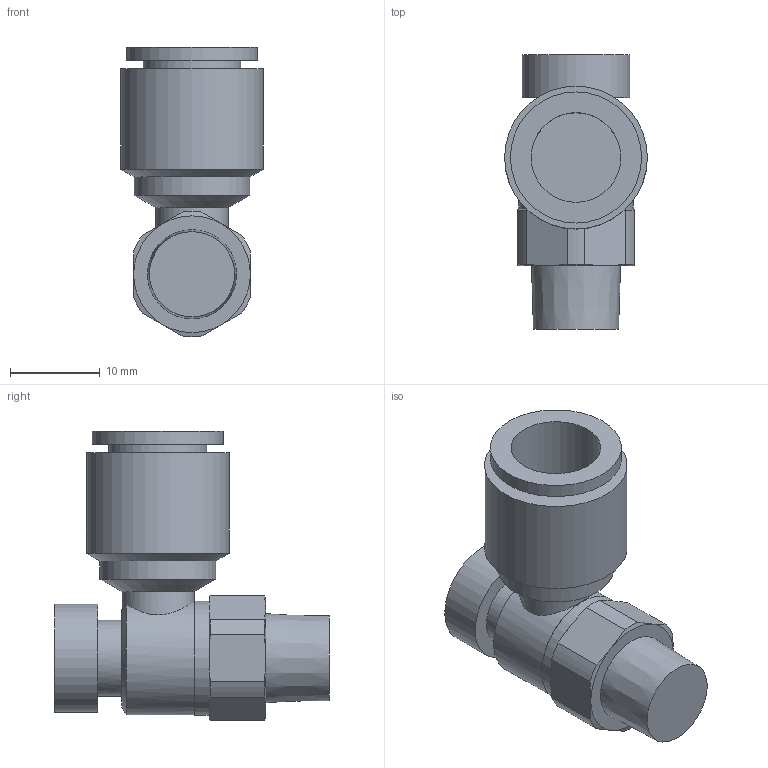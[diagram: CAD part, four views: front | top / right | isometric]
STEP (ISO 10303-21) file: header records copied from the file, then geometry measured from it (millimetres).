
FILE_DESCRIPTION(/* description */ ('STEP AP214'),/* implementation_level */ '2;1');
FILE_NAME(/* name */ 'AS2201F-01-10SA',/* time_stamp */ '2024-10-24T14:06:35+02:00',/* author */ ('License CC BY-ND 4.0'),/* organization */ ('CADENAS'),/* preprocessor_version */ 'ST-DEVELOPER v19.3',/* originating_system */ 'PARTsolutions',/* authorisation */ ' ');
FILE_SCHEMA (('AUTOMOTIVE_DESIGN {1 0 10303 214 3 1 1}'));
Length unit declared in the file: millimetre
Products named in the file (1): AS2201F-01-10SA
Bounding box: 15.9 x 30.6 x 32.29 mm (x, y, z)
Volume: 5266.3 mm3; surface area: 3242 mm2
Topology: 1 solids, 1 shells, 49 faces, 104 edges, 64 vertices
Faces by surface type: plane 17, cone 16, cylinder 16
Full cylindrical faces by diameter (mm): 8.1 x1, 8.45 x1, 10 x1, 10.9 x1, 12 x1, 12.6 x1, 12.7 x1, 12.9 x1, 14.6 x1, 15.9 x1
Entity records: 1297 total; most frequent: CARTESIAN_POINT 298, DIRECTION 206, ORIENTED_EDGE 176, AXIS2_PLACEMENT_3D 96, EDGE_CURVE 88, EDGE_LOOP 69, FACE_BOUND 69, VERTEX_POINT 61
